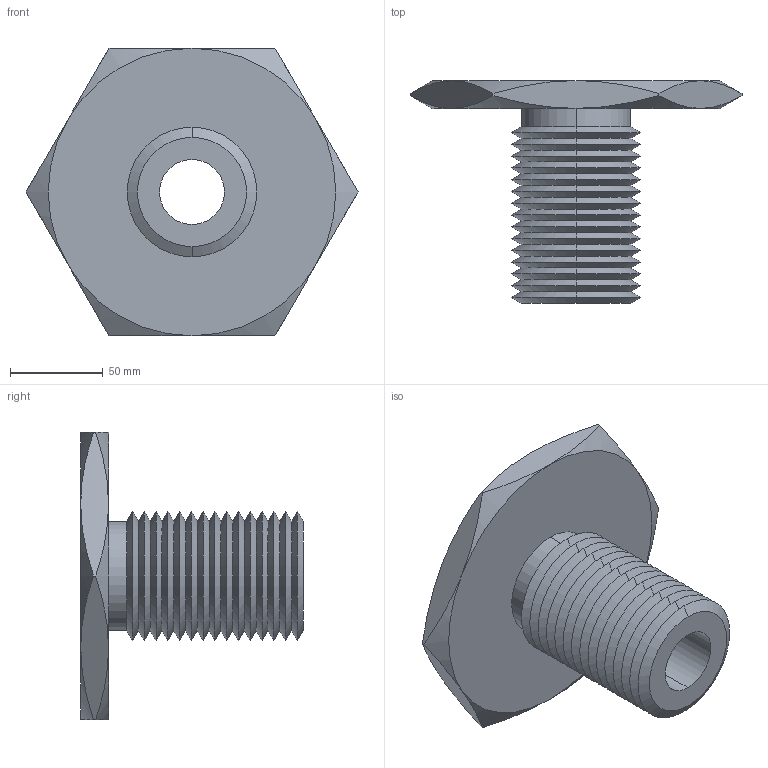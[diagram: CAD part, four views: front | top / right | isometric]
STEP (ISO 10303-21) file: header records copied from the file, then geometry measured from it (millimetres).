
FILE_DESCRIPTION (( 'STEP AP203' ), '1' );
FILE_NAME ('63302.W5275_1,37 UNC-6.step', '2013-12-08T11:55:28', ( 'User' ), ( '' ), 'SwSTEP 2.0', 'SolidWorks 2009', '' );
FILE_SCHEMA (( 'CONFIG_CONTROL_DESIGN' ));
Length unit declared in the file: millimetre
Products named in the file (1): 63302.W5275_1,37 UNC-6
Bounding box: 178.98 x 120 x 155 mm (x, y, z)
Volume: 524885.4 mm3; surface area: 99039.2 mm2
Topology: 1 solids, 1 shells, 87 faces, 178 edges, 94 vertices
Faces by surface type: cone 74, plane 9, cylinder 4
Entity records: 2479 total; most frequent: CARTESIAN_POINT 584, DIRECTION 412, ORIENTED_EDGE 356, EDGE_CURVE 178, AXIS2_PLACEMENT_3D 170, VERTEX_POINT 94, EDGE_LOOP 90, ADVANCED_FACE 87
